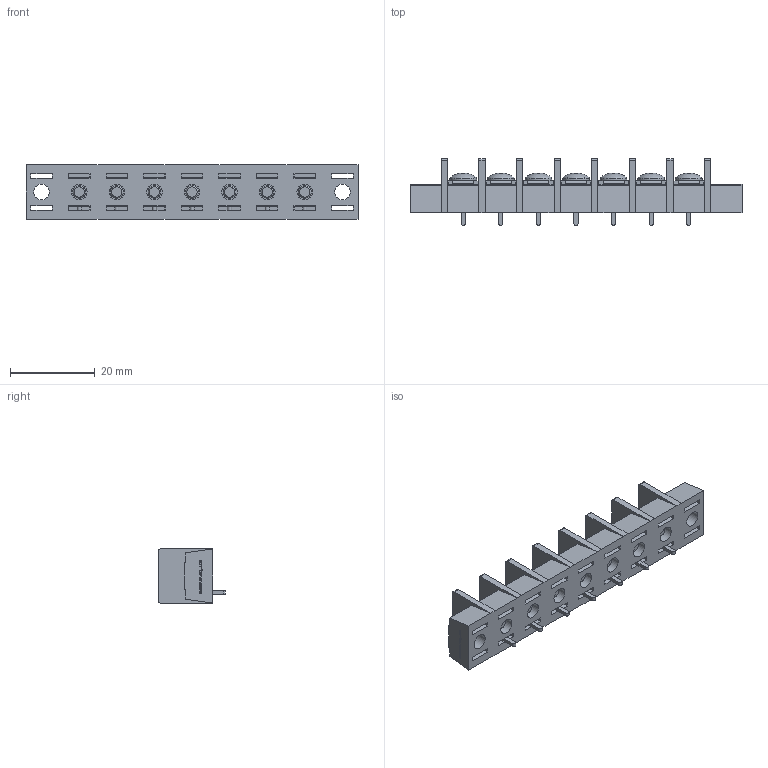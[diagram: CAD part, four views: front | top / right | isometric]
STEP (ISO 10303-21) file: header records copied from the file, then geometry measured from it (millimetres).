
FILE_DESCRIPTION(/* description */ ('Alibre Inc.'),/* implementation_level */ '2;1');
FILE_NAME(/* name */ 'export0',/* time_stamp */ '2015-10-20T19:51:50+09:00',/* author */ (''),/* organization */ (''),/* preprocessor_version */ 'ST-DEVELOPER v14',/* originating_system */ 'Alibre',/* authorisation */ '');
FILE_SCHEMA (('CONFIG_CONTROL_DESIGN'));
Length unit declared in the file: centimetre
Products named in the file (1): ID_1
Bounding box: 78.52 x 15.8 x 12.8 mm (x, y, z)
Volume: 6788.3 mm3; surface area: 8381.3 mm2
Topology: 1 solids, 120 shells, 2379 faces, 6121 edges, 4052 vertices
Faces by surface type: plane 1779, bspline 468, cylinder 76, cone 35, torus 14, sphere 7
Full cylindrical faces by diameter (mm): 3 x14, 3.7 x9, 4.6 x9, 6.3 x7
Entity records: 68936 total; most frequent: CARTESIAN_POINT 16684, ORIENTED_EDGE 12076, DIRECTION 7212, EDGE_CURVE 6038, VECTOR 4661, LINE 4661, VERTEX_POINT 4029, EDGE_LOOP 2619
